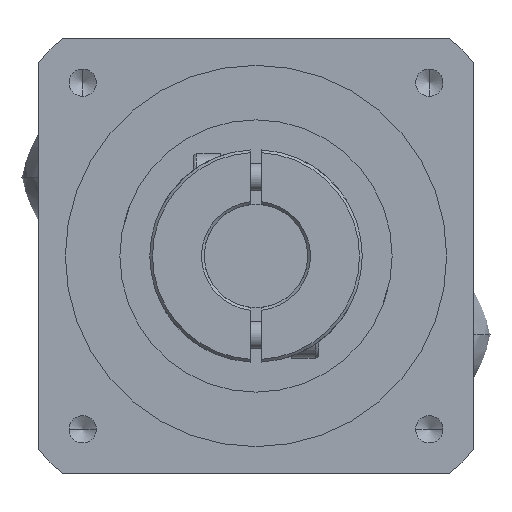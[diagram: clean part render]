
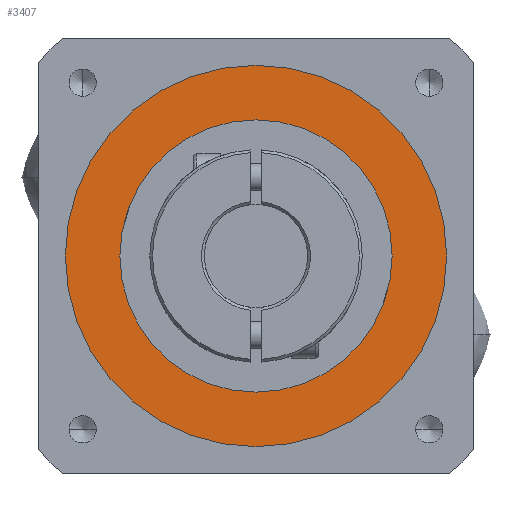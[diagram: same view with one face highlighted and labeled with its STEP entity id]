
A CAD part, left-side view. The second image highlights one B-rep face of the part: STEP entity #3407.
In plain terms, the highlighted planar face has unit normal (-1, 0, 0) as drawn and (0, 0, 1) by its records, which use the part's own axes.
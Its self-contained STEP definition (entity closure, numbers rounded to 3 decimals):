
#8 = DIRECTION ( 'NONE',  ( 1., 0., 0. ) ) ;
#15 = EDGE_LOOP ( 'NONE', ( #425, #8230 ) ) ;
#205 = DIRECTION ( 'NONE',  ( 1., 0., 0. ) ) ;
#270 = PLANE ( 'NONE',  #2843 ) ;
#371 = VERTEX_POINT ( 'NONE', #8618 ) ;
#425 = ORIENTED_EDGE ( 'NONE', *, *, #1592, .T. ) ;
#620 = FACE_OUTER_BOUND ( 'NONE', #5111, .T. ) ;
#757 = EDGE_CURVE ( 'NONE', #6602, #371, #1276, .T. ) ;
#770 = DIRECTION ( 'NONE',  ( 0., 0., 1. ) ) ;
#837 = DIRECTION ( 'NONE',  ( 1., 0., 0. ) ) ;
#860 = CARTESIAN_POINT ( 'NONE',  ( 0., 0., 33.5 ) ) ;
#936 = CARTESIAN_POINT ( 'NONE',  ( -25., 0., 33.5 ) ) ;
#1188 = CARTESIAN_POINT ( 'NONE',  ( 0., 0., 33.5 ) ) ;
#1258 = CARTESIAN_POINT ( 'NONE',  ( -35., 0., 33.5 ) ) ;
#1276 = CIRCLE ( 'NONE', #5745, 35. ) ;
#1592 = EDGE_CURVE ( 'NONE', #6981, #6413, #5896, .T. ) ;
#2221 = CARTESIAN_POINT ( 'NONE',  ( 25., 0., 33.5 ) ) ;
#2539 = AXIS2_PLACEMENT_3D ( 'NONE', #860, #7471, #837 ) ;
#2843 = AXIS2_PLACEMENT_3D ( 'NONE', #6271, #6934, #6296 ) ;
#2938 = FACE_BOUND ( 'NONE', #15, .T. ) ;
#3407 = ADVANCED_FACE ( 'NONE', ( #620, #2938 ), #270, .T. ) ;
#3802 = DIRECTION ( 'NONE',  ( 1., 0., 0. ) ) ;
#3955 = CIRCLE ( 'NONE', #8428, 25. ) ;
#5111 = EDGE_LOOP ( 'NONE', ( #6758, #6546 ) ) ;
#5745 = AXIS2_PLACEMENT_3D ( 'NONE', #7354, #6044, #8 ) ;
#5896 = CIRCLE ( 'NONE', #2539, 25. ) ;
#6044 = DIRECTION ( 'NONE',  ( 0., 0., 1. ) ) ;
#6271 = CARTESIAN_POINT ( 'NONE',  ( 0., 0., 33.5 ) ) ;
#6296 = DIRECTION ( 'NONE',  ( 1., 0., 0. ) ) ;
#6413 = VERTEX_POINT ( 'NONE', #936 ) ;
#6546 = ORIENTED_EDGE ( 'NONE', *, *, #757, .T. ) ;
#6602 = VERTEX_POINT ( 'NONE', #1258 ) ;
#6659 = CIRCLE ( 'NONE', #7133, 35. ) ;
#6755 = CARTESIAN_POINT ( 'NONE',  ( 0., 0., 33.5 ) ) ;
#6758 = ORIENTED_EDGE ( 'NONE', *, *, #7314, .T. ) ;
#6934 = DIRECTION ( 'NONE',  ( 0., 0., 1. ) ) ;
#6981 = VERTEX_POINT ( 'NONE', #2221 ) ;
#7133 = AXIS2_PLACEMENT_3D ( 'NONE', #6755, #770, #205 ) ;
#7175 = DIRECTION ( 'NONE',  ( 0., 0., -1. ) ) ;
#7314 = EDGE_CURVE ( 'NONE', #371, #6602, #6659, .T. ) ;
#7354 = CARTESIAN_POINT ( 'NONE',  ( 0., 0., 33.5 ) ) ;
#7471 = DIRECTION ( 'NONE',  ( 0., 0., -1. ) ) ;
#8230 = ORIENTED_EDGE ( 'NONE', *, *, #8430, .T. ) ;
#8428 = AXIS2_PLACEMENT_3D ( 'NONE', #1188, #7175, #3802 ) ;
#8430 = EDGE_CURVE ( 'NONE', #6413, #6981, #3955, .T. ) ;
#8618 = CARTESIAN_POINT ( 'NONE',  ( 35., 0., 33.5 ) ) ;
